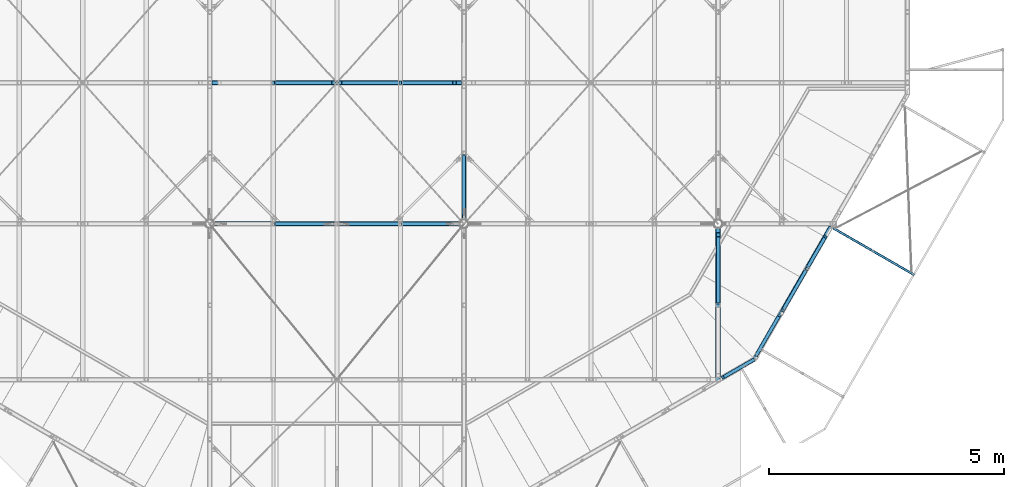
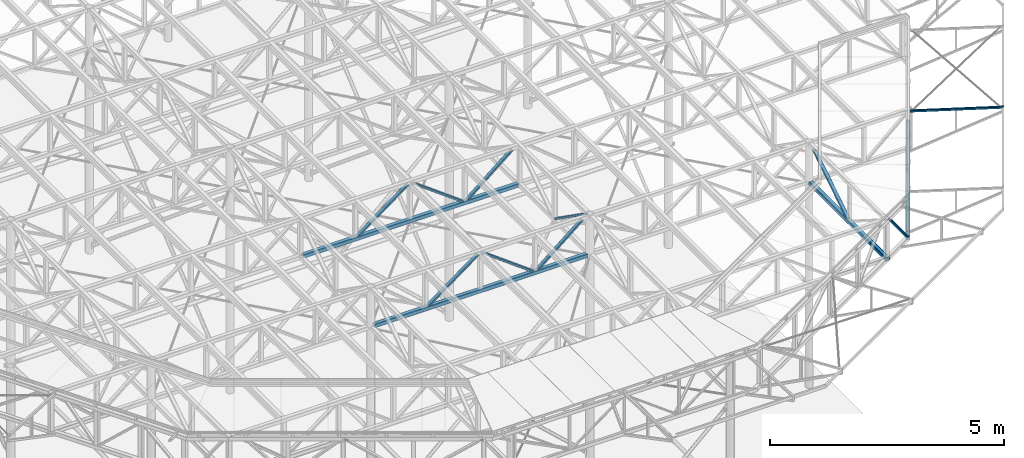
# One storey, part 47 of 132: 17 discrete accessories, 6 elements without a shape of their own.
"""IFC2X3 building model written with IfcOpenShell, lengths in millimetres."""

from ifc_helpers import new_model, si_unit, frame, origin_with_axes, origin_2d_with_axis, place, context, subcontext, project, spatial, hollow_rectangle, circle, extrude, boolean, clip, halfspace, material, type_object, element, aggregate, save


model = new_model("IFC2X3")

# Units and contexts
model_context = context("Model", 3, precision=1e-05, world=origin_with_axes())
body_context = subcontext(model_context, "Body", "Model", "MODEL_VIEW")
ifc_project = project(units=[si_unit("LENGTHUNIT", "METRE", prefix="MILLI"), si_unit("AREAUNIT", "SQUARE_METRE"), si_unit("VOLUMEUNIT", "CUBIC_METRE"), si_unit("MASSUNIT", "GRAM", prefix="KILO"), si_unit("TIMEUNIT", "SECOND"), si_unit("PLANEANGLEUNIT", "RADIAN"), si_unit("SOLIDANGLEUNIT", "STERADIAN"), si_unit("THERMODYNAMICTEMPERATUREUNIT", "DEGREE_CELSIUS"), si_unit("LUMINOUSINTENSITYUNIT", "LUMEN")], contexts=[model_context])

# Site, building, storey
site_placement = place(None, origin_with_axes())
site = spatial("IfcSite", under=ifc_project, at=site_placement, Name="Budowa", CompositionType="ELEMENT")
building_placement = place(site_placement, origin_with_axes())
building = spatial("IfcBuilding", under=site, at=building_placement, Name="Undefined", CompositionType="ELEMENT")
storey_placement = place(building_placement, origin_with_axes())
storey = spatial("IfcBuildingStorey", under=building, at=storey_placement, Name="Undefined", CompositionType="ELEMENT", Elevation=0.0)

# Assembly, discrete accessory
assembly_1_placement = place(storey_placement, origin_with_axes())
assembly_1 = element("IfcElementAssembly", 1, at=assembly_1_placement, inside=storey, Name="Steel Assembly", AssemblyPlace="NOTDEFINED", PredefinedType="RIGID_FRAME")
ifc_material = material(Name="STEEL/S235")
discrete_accessory_type = type_object("IfcDiscreteAccessoryType", Name="BEAM")
discrete_accessory_1_placement = place(assembly_1_placement, frame((22669.1585802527, 5910.61448167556, 13855.0311915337), z_axis=(-0.499969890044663, -0.866042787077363, 0.0), x_axis=(0.864962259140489, -0.499346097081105, 0.0499376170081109)))
discrete_accessory_1 = element("IfcDiscreteAccessory", 2, at=discrete_accessory_1_placement, type_object=discrete_accessory_type, material=ifc_material, Name="BEAM", ObjectType="SHS50*4", context=body_context, shape_type="Clipping", body=[
    clip(clip(extrude(hollow_rectangle(XDim=50.0, YDim=50.0, WallThickness=4.0, InnerFilletRadius=4.0, OuterFilletRadius=8.0, at=origin_2d_with_axis()), frame((2047.80222226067, -1.81898940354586e-12, -1.00153404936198e-12), z_axis=(-1.0, 0.0, 0.0), x_axis=(0.0, -1.0, 0.0)), (0.0, 0.0, 1.0), 2120.54), halfspace(frame((2002.59894631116, 25.0000000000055, -2.91038304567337e-11), z_axis=(-0.689225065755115, 0.724547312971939, 0.0), x_axis=(0.0, 0.0, 1.0)), True)), halfspace(frame((-1.21290213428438e-08, 25.0000000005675, 73.1665326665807), z_axis=(-0.998752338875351, 0.0499376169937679, 0.0), x_axis=(-0.0499376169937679, -0.998752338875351, 0.0)), False)),
])
aggregate(assembly_1, [discrete_accessory_1])

# Assembly, discrete accessories
assembly_2_placement = place(storey_placement, origin_with_axes())
assembly_2 = element("IfcElementAssembly", 3, at=assembly_2_placement, inside=storey, Name="Steel Assembly", AssemblyPlace="NOTDEFINED", PredefinedType="RIGID_FRAME")
discrete_accessory_2_placement = place(assembly_2_placement, frame((21005.0392852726, 3126.34993520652, 12829.9999999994), z_axis=(0.499969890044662, -0.866042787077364, 0.0), x_axis=(-0.550737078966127, -0.317942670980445, 0.771751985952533)))
discrete_accessory_2 = element("IfcDiscreteAccessory", 4, at=discrete_accessory_2_placement, type_object=discrete_accessory_type, material=ifc_material, Name="BEAM", ObjectType="RHS80*40*4", context=body_context, shape_type="Clipping", body=[
    clip(clip(extrude(hollow_rectangle(XDim=40.0, YDim=80.0, WallThickness=4.0, InnerFilletRadius=4.0, OuterFilletRadius=8.0, at=origin_2d_with_axis()), frame((1308.75188651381, 7.64194053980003e-13, -5.26465298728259e-14), z_axis=(-1.0, 0.0, 0.0), x_axis=(0.0, -1.0, 0.0)), (0.0, 0.0, 1.0), 1321.75), halfspace(frame((1257.16546406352, 31.7961818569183, 999.999999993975), z_axis=(-0.771751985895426, 0.635923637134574, -1.24207010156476e-10), x_axis=(-0.635923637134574, -0.771751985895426, -1.02347257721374e-10)), True)), halfspace(frame((38.5875991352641, -31.7961818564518, 1000.0000000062), z_axis=(0.771751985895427, -0.635923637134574, 1.24207727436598e-10), x_axis=(0.635923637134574, 0.771751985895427, 1.02347408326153e-10)), True)),
])
discrete_accessory_3_placement = place(assembly_2_placement, frame((22524.601550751, 5762.83743677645, 13830.0000000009), z_axis=(0.866025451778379, -0.499999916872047, 0.0), x_axis=(-0.317961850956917, -0.550726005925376, -0.771751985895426)))
solid_1 = boolean("DIFFERENCE", boolean("DIFFERENCE", extrude(hollow_rectangle(XDim=100.0, YDim=100.0, WallThickness=4.0, InnerFilletRadius=4.0, OuterFilletRadius=8.0, at=origin_2d_with_axis()), frame((562.315003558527, -603.795327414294, 8.65720911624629e-08), z_axis=(0.771751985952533, 0.63592363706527, -7.13974205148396e-11), x_axis=(-0.635923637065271, 0.771751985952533, 5.8831574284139e-11)), (0.0, 0.0, 1.0), 900.0), halfspace(frame((562.315003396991, -603.795327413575, 1000.00000008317), z_axis=(0.771751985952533, 0.63592363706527, -7.13974205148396e-11), x_axis=(0.0, 0.0, -1.0)), True)), halfspace(frame((1256.89179070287, -31.4640539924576, 1000.00000019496), z_axis=(-0.771751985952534, -0.635923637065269, 7.1397709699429e-11), x_axis=(0.0, 0.0, -1.0)), True))
discrete_accessory_3 = element("IfcDiscreteAccessory", 5, at=discrete_accessory_3_placement, type_object=discrete_accessory_type, material=ifc_material, Name="BEAM", ObjectType="RHS80*40*4", context=body_context, shape_type="CSG", body=[
    boolean("DIFFERENCE", boolean("DIFFERENCE", boolean("DIFFERENCE", extrude(hollow_rectangle(XDim=40.0, YDim=80.0, WallThickness=4.0, InnerFilletRadius=4.0, OuterFilletRadius=8.0, at=origin_2d_with_axis()), frame((1286.18037682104, -1.81898940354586e-12, 9.30315642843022e-13), z_axis=(-1.0, 0.0, 0.0), x_axis=(0.0, -1.0, 0.0)), (0.0, 0.0, 1.0), 1276.61), solid_1), halfspace(frame((1257.16546421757, -31.7961818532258, 1000.0000000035), z_axis=(-0.771751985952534, -0.635923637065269, 7.1397709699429e-11), x_axis=(0.635923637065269, -0.771751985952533, -5.88306647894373e-11)), True)), halfspace(frame((38.5875993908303, 31.7961818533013, 999.999999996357), z_axis=(0.771751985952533, 0.63592363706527, -7.13974205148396e-11), x_axis=(-0.635923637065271, 0.771751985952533, 5.8831574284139e-11)), True)),
])
discrete_accessory_4_placement = place(assembly_2_placement, frame((21572.8166314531, 4114.29782161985, 13830.0000000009), z_axis=(0.866025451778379, -0.499999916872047, 0.0), x_axis=(0.366880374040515, 0.635455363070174, -0.679408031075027)))
solid_2 = boolean("DIFFERENCE", boolean("DIFFERENCE", extrude(hollow_rectangle(XDim=100.0, YDim=100.0, WallThickness=4.0, InnerFilletRadius=4.0, OuterFilletRadius=8.0, at=origin_2d_with_axis()), frame((33.9704017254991, -36.6880335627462, 1.12331645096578e-08), z_axis=(0.679408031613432, -0.73376067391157, 2.95362334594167e-10), x_axis=(0.73376067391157, 0.679408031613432, 3.18989805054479e-10)), (0.0, 0.0, 1.0), 900.0), halfspace(frame((33.9704011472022, -36.6880336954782, 1000.00000001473), z_axis=(0.679408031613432, -0.73376067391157, 2.95362334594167e-10), x_axis=(0.0, 0.0, -1.0)), True)), halfspace(frame((645.437629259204, -697.072640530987, 1000.0000002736), z_axis=(-0.679408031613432, 0.73376067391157, -2.95361762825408e-10), x_axis=(0.0, 0.0, -1.0)), True))
solid_3 = boolean("DIFFERENCE", boolean("DIFFERENCE", extrude(hollow_rectangle(XDim=100.0, YDim=100.0, WallThickness=4.0, InnerFilletRadius=4.0, OuterFilletRadius=8.0, at=origin_2d_with_axis()), frame((826.431930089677, 697.072639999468, 3.55837069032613e-07), z_axis=(0.679408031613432, -0.73376067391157, 2.95362334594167e-10), x_axis=(0.73376067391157, 0.679408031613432, 3.18989805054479e-10)), (0.0, 0.0, 1.0), 900.0), halfspace(frame((826.431929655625, 697.072640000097, 1000.00000035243), z_axis=(0.679408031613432, -0.73376067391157, 2.95362334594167e-10), x_axis=(0.0, 0.0, -1.0)), True)), halfspace(frame((1437.89915717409, 36.6880336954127, 999.999999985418), z_axis=(-0.679408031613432, 0.73376067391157, -2.95361762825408e-10), x_axis=(0.0, 0.0, -1.0)), True))
discrete_accessory_4 = element("IfcDiscreteAccessory", 6, at=discrete_accessory_4_placement, type_object=discrete_accessory_type, material=ifc_material, Name="BEAM", ObjectType="RHS80*40*4", context=body_context, shape_type="CSG", body=[
    boolean("DIFFERENCE", boolean("DIFFERENCE", boolean("DIFFERENCE", boolean("DIFFERENCE", extrude(hollow_rectangle(XDim=40.0, YDim=80.0, WallThickness=4.0, InnerFilletRadius=4.0, OuterFilletRadius=8.0, at=origin_2d_with_axis()), frame((1455.54966626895, 0.0, -1.67210073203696e-14), z_axis=(-1.0, 0.0, 0.0), x_axis=(0.0, -1.0, 0.0)), (0.0, 0.0, 1.0), 1439.23), solid_2), solid_3), halfspace(frame((1437.89915717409, 36.6880336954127, 999.999999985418), z_axis=(-0.679408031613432, 0.73376067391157, -2.95361762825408e-10), x_axis=(-0.73376067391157, -0.679408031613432, -3.18989668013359e-10)), True)), halfspace(frame((33.9704011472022, -36.6880336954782, 1000.00000001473), z_axis=(0.679408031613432, -0.73376067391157, 2.95362334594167e-10), x_axis=(0.73376067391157, 0.679408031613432, 3.18989805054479e-10)), True)),
])
discrete_accessory_5_placement = place(assembly_2_placement, frame((21014.2182094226, 3168.25350714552, 12829.9999999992), z_axis=(0.866025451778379, -0.499999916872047, 0.0), x_axis=(0.366880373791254, 0.63545536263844, 0.679408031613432)))
solid_4 = boolean("DIFFERENCE", boolean("DIFFERENCE", extrude(hollow_rectangle(XDim=100.0, YDim=100.0, WallThickness=4.0, InnerFilletRadius=4.0, OuterFilletRadius=8.0, at=origin_2d_with_axis()), frame((659.083833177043, 684.43726692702, 10.738202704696), z_axis=(-0.679408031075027, -0.733760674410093, -2.95362433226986e-10), x_axis=(0.733760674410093, -0.679408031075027, 3.18989805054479e-10)), (0.0, 0.0, 1.0), 900.0), halfspace(frame((659.083832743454, 684.437266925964, 1010.73820270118), z_axis=(-0.679408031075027, -0.733760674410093, -2.95362433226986e-10), x_axis=(0.0, 0.0, -1.0)), True)), halfspace(frame((47.6166042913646, 24.0526604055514, 1010.73820243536), z_axis=(0.679408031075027, 0.733760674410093, 2.95361735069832e-10), x_axis=(0.0, 0.0, -1.0)), True))
solid_5 = boolean("DIFFERENCE", boolean("DIFFERENCE", extrude(hollow_rectangle(XDim=100.0, YDim=100.0, WallThickness=4.0, InnerFilletRadius=4.0, OuterFilletRadius=8.0, at=origin_2d_with_axis()), frame((1451.54536100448, -49.3234072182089, 10.7382030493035), z_axis=(-0.679408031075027, -0.733760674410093, -2.95362433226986e-10), x_axis=(0.733760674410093, -0.679408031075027, 3.18989805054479e-10)), (0.0, 0.0, 1.0), 900.0), halfspace(frame((1451.54536057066, -49.3234072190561, 1010.73820304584), z_axis=(-0.679408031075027, -0.733760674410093, -2.95362433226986e-10), x_axis=(0.0, 0.0, -1.0)), True)), halfspace(frame((840.078132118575, -709.708013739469, 1010.73820278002), z_axis=(0.679408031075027, 0.733760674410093, 2.95361735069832e-10), x_axis=(0.0, 0.0, -1.0)), True))
discrete_accessory_5 = element("IfcDiscreteAccessory", 7, at=discrete_accessory_5_placement, type_object=discrete_accessory_type, material=ifc_material, Name="BEAM", ObjectType="RHS80*40*4", context=body_context, shape_type="CSG", body=[
    boolean("DIFFERENCE", boolean("DIFFERENCE", boolean("DIFFERENCE", boolean("DIFFERENCE", extrude(hollow_rectangle(XDim=40.0, YDim=80.0, WallThickness=4.0, InnerFilletRadius=4.0, OuterFilletRadius=8.0, at=origin_2d_with_axis()), frame((1467.50994166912, 1.65606307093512e-12, 8.39079865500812e-13), z_axis=(-1.0, 0.0, 0.0), x_axis=(0.0, -1.0, 0.0)), (0.0, 0.0, 1.0), 1463.15), solid_4), solid_5), halfspace(frame((1437.89915762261, -36.6880330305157, 1000.00000062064), z_axis=(-0.679408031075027, -0.733760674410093, -2.95362433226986e-10), x_axis=(0.733760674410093, -0.679408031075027, 3.18989805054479e-10)), True)), halfspace(frame((33.9704012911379, 36.6880335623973, 1000.0000000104), z_axis=(0.679408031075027, 0.733760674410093, 2.95361735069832e-10), x_axis=(-0.733760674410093, 0.679408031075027, -3.18989779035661e-10)), True)),
])
discrete_accessory_6_placement = place(assembly_2_placement, frame((20994.4181832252, 3112.48245776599, 12830.0), z_axis=(0.0, 0.0, 1.0), x_axis=(0.5000000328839, 0.866025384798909, 0.0)))
discrete_accessory_6 = element("IfcDiscreteAccessory", 8, at=discrete_accessory_6_placement, type_object=discrete_accessory_type, material=ifc_material, Name="BEAM", ObjectType="SHS100*5", context=body_context, shape_type="Clipping", body=[
    clip(clip(extrude(hollow_rectangle(XDim=100.0, YDim=100.0, WallThickness=5.0, InnerFilletRadius=5.0, OuterFilletRadius=10.0, at=origin_2d_with_axis()), frame((3363.31663048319, 1.86701578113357e-13, 0.0), z_axis=(-1.0, 0.0, 0.0), x_axis=(0.0, -1.0, 0.0)), (0.0, 0.0, 1.0), 3429.57), halfspace(frame((3247.84656727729, 50.000000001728, -50.0), z_axis=(0.866025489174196, 0.499999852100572, 0.0), x_axis=(0.5000000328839, -0.866025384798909, 0.0)), False)), halfspace(frame((3.27163434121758e-08, -50.0000000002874, 0.0), z_axis=(0.965921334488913, -0.258835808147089, 0.0), x_axis=(0.0, 0.0, 1.0)), True)),
])
aggregate(assembly_2, [discrete_accessory_2, discrete_accessory_3, discrete_accessory_4, discrete_accessory_5, discrete_accessory_6])

assembly_3_placement = place(storey_placement, origin_with_axes())
assembly_3 = element("IfcElementAssembly", 9, at=assembly_3_placement, inside=storey, Name="Steel Assembly", AssemblyPlace="NOTDEFINED", PredefinedType="RIGID_FRAME")
discrete_accessory_7_placement = place(assembly_3_placement, frame((20225.0000000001, 5851.20000004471, 13830.0), z_axis=(1.0, 0.0, 0.0), x_axis=(0.0, -0.845757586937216, -0.533567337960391)))
solid_6 = boolean("DIFFERENCE", boolean("DIFFERENCE", extrude(hollow_rectangle(XDim=90.0, YDim=90.0, WallThickness=6.0, InnerFilletRadius=6.0, OuterFilletRadius=12.0, at=origin_2d_with_axis()), frame((1843.27053417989, -39.620043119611, 1.45519152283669e-11), z_axis=(-0.533567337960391, -0.845757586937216, 0.0), x_axis=(0.845757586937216, -0.533567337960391, 0.0)), (0.0, 0.0, 1.0), 900.0), halfspace(frame((1843.27053417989, -39.6200431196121, 1000.00000000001), z_axis=(-0.533567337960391, -0.845757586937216, 0.0), x_axis=(0.845757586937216, -0.533567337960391, 0.0)), True)), halfspace(frame((1363.05993001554, -800.801871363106, 1000.00000000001), z_axis=(0.533567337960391, 0.845757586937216, 0.0), x_axis=(-0.845757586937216, 0.533567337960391, 0.0)), True))
discrete_accessory_7 = element("IfcDiscreteAccessory", 10, at=discrete_accessory_7_placement, type_object=discrete_accessory_type, material=ifc_material, Name="BEAM", ObjectType="RHS90*50*5", context=body_context, shape_type="CSG", body=[
    boolean("DIFFERENCE", boolean("DIFFERENCE", boolean("DIFFERENCE", extrude(hollow_rectangle(XDim=50.0, YDim=90.0, WallThickness=5.0, InnerFilletRadius=7.5, OuterFilletRadius=12.5, at=origin_2d_with_axis()), frame((1845.48264413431, -3.53553394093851e-12, 0.0), z_axis=(-1.0, 0.0, 0.0), x_axis=(0.0, -1.0, 0.0)), (0.0, 0.0, 1.0), 1816.79), solid_6), halfspace(frame((1847.49932138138, -42.2878793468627, 1000.0), z_axis=(-0.533567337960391, -0.845757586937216, 0.0), x_axis=(0.845757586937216, -0.533567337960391, 0.0)), True)), halfspace(frame((26.6783668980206, 42.2878793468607, 1000.0), z_axis=(0.533567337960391, 0.845757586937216, 0.0), x_axis=(-0.845757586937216, 0.533567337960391, 0.0)), True)),
])
discrete_accessory_8_placement = place(assembly_3_placement, frame((20225.0, 5911.10000004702, 12830.0), z_axis=(-1.0, 0.0, 0.0), x_axis=(0.0, -1.0, 0.0)))
discrete_accessory_8 = element("IfcDiscreteAccessory", 11, at=discrete_accessory_8_placement, type_object=discrete_accessory_type, material=ifc_material, Name="BEAM", ObjectType="SHS100*8", context=body_context, shape_type="CSG", body=[
    boolean("DIFFERENCE", boolean("DIFFERENCE", extrude(hollow_rectangle(XDim=100.0, YDim=100.0, WallThickness=8.0, InnerFilletRadius=8.0, OuterFilletRadius=16.0, at=origin_2d_with_axis()), frame((3271.09999999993, 0.0, 0.0), z_axis=(-1.0, 0.0, 0.0), x_axis=(0.0, -1.0, 0.0)), (0.0, 0.0, 1.0), 3360.0), extrude(circle(Radius=89.9, at=origin_2d_with_axis()), frame((-88.9000000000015, 1950.0, -5.45696821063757e-12), z_axis=(0.0, -1.0, 0.0), x_axis=(1.0, 0.0, 0.0)), (0.0, 0.0, 1.0), 2100.0)), halfspace(frame((-88.9000000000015, -5339.0, -5.45696821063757e-12), z_axis=(-1.0, 0.0, 0.0), x_axis=(0.0, 0.0, -1.0)), False)),
])
aggregate(assembly_3, [discrete_accessory_7, discrete_accessory_8])

assembly_4_placement = place(storey_placement, origin_with_axes())
assembly_4 = element("IfcElementAssembly", 12, at=assembly_4_placement, inside=storey, Name="Steel Assembly", AssemblyPlace="NOTDEFINED", PredefinedType="RIGID_FRAME")
discrete_accessory_9_placement = place(assembly_4_placement, frame((14683.9999999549, 9000.00000004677, 13830.0), z_axis=(0.0, -1.0, 0.0), x_axis=(-0.770567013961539, 0.0, -0.637358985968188)))
solid_7 = boolean("DIFFERENCE", boolean("DIFFERENCE", extrude(hollow_rectangle(XDim=90.0, YDim=90.0, WallThickness=6.0, InnerFilletRadius=6.0, OuterFilletRadius=12.0, at=origin_2d_with_axis()), frame((1537.1065565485, -38.5283507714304, -6.22094376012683e-10), z_axis=(-0.637358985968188, -0.770567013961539, 0.0), x_axis=(0.770567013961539, -0.637358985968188, 0.0)), (0.0, 0.0, 1.0), 900.0), halfspace(frame((1537.1065565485, -38.5283507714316, 999.999999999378), z_axis=(-0.637358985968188, -0.770567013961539, 0.0), x_axis=(0.770567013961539, -0.637358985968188, 0.0)), True)), halfspace(frame((963.483469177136, -732.038663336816, 999.999999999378), z_axis=(0.637358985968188, 0.770567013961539, 0.0), x_axis=(-0.770567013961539, 0.637358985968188, 0.0)), True))
discrete_accessory_9 = element("IfcDiscreteAccessory", 13, at=discrete_accessory_9_placement, type_object=discrete_accessory_type, material=ifc_material, Name="BEAM", ObjectType="RHS90*50*5", context=body_context, shape_type="CSG", body=[
    boolean("DIFFERENCE", boolean("DIFFERENCE", boolean("DIFFERENCE", extrude(hollow_rectangle(XDim=50.0, YDim=90.0, WallThickness=5.0, InnerFilletRadius=7.5, OuterFilletRadius=12.5, at=origin_2d_with_axis()), frame((1533.07734352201, 2.27373675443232e-12, 0.0), z_axis=(-1.0, 0.0, 0.0), x_axis=(0.0, -1.0, 0.0)), (0.0, 0.0, 1.0), 1497.18), solid_7), halfspace(frame((1537.1065565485, -38.5283507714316, 999.999999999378), z_axis=(-0.637358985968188, -0.770567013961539, 0.0), x_axis=(0.770567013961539, -0.637358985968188, 0.0)), True)), halfspace(frame((31.867949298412, 38.52835069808, 1000.0), z_axis=(0.637358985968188, 0.770567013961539, 0.0), x_axis=(-0.770567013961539, 0.637358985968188, 0.0)), True)),
])
discrete_accessory_10_placement = place(assembly_4_placement, frame((12124.9999999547, 9000.00000004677, 13830.0), z_axis=(0.0, -1.0, 0.0), x_axis=(-0.803557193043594, 0.0, -0.595227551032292)))
solid_8 = boolean("DIFFERENCE", boolean("DIFFERENCE", extrude(hollow_rectangle(XDim=90.0, YDim=90.0, WallThickness=6.0, InnerFilletRadius=6.0, OuterFilletRadius=12.0, at=origin_2d_with_axis()), frame((565.466173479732, 763.379333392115, -6.22094376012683e-10), z_axis=(-0.595227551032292, -0.803557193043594, 0.0), x_axis=(0.803557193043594, -0.595227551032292, 0.0)), (0.0, 0.0, 1.0), 900.0), halfspace(frame((565.46617347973, 763.379333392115, 999.999999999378), z_axis=(-0.595227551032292, -0.803557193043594, 0.0), x_axis=(0.803557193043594, -0.595227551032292, 0.0)), True)), halfspace(frame((29.7613775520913, 40.1778596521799, 1000.0), z_axis=(0.595227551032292, 0.803557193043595, 0.0), x_axis=(-0.803557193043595, 0.595227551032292, 0.0)), True))
solid_9 = boolean("DIFFERENCE", boolean("DIFFERENCE", extrude(hollow_rectangle(XDim=90.0, YDim=90.0, WallThickness=6.0, InnerFilletRadius=6.0, OuterFilletRadius=12.0, at=origin_2d_with_axis()), frame((1650.26838408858, -40.1778605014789, -6.22094376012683e-10), z_axis=(-0.595227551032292, -0.803557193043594, 0.0), x_axis=(0.803557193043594, -0.595227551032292, 0.0)), (0.0, 0.0, 1.0), 900.0), halfspace(frame((1650.2683829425, -40.1778596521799, 1000.0), z_axis=(-0.595227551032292, -0.803557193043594, 0.0), x_axis=(0.803557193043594, -0.595227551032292, 0.0)), True)), halfspace(frame((1114.56358815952, -763.379334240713, 999.999999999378), z_axis=(0.595227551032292, 0.803557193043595, 0.0), x_axis=(-0.803557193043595, 0.595227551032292, 0.0)), True))
discrete_accessory_10 = element("IfcDiscreteAccessory", 14, at=discrete_accessory_10_placement, type_object=discrete_accessory_type, material=ifc_material, Name="BEAM", ObjectType="RHS90*50*5", context=body_context, shape_type="CSG", body=[
    boolean("DIFFERENCE", boolean("DIFFERENCE", boolean("DIFFERENCE", boolean("DIFFERENCE", extrude(hollow_rectangle(XDim=50.0, YDim=90.0, WallThickness=5.0, InnerFilletRadius=7.5, OuterFilletRadius=12.5, at=origin_2d_with_axis()), frame((1632.54994793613, 0.0, 0.0), z_axis=(-1.0, 0.0, 0.0), x_axis=(0.0, -1.0, 0.0)), (0.0, 0.0, 1.0), 1585.07), solid_8), solid_9), halfspace(frame((1650.2683829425, -40.1778596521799, 1000.0), z_axis=(-0.595227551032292, -0.803557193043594, 0.0), x_axis=(0.803557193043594, -0.595227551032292, 0.0)), True)), halfspace(frame((29.7613775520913, 40.1778596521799, 1000.0), z_axis=(0.595227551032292, 0.803557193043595, 0.0), x_axis=(-0.803557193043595, 0.595227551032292, 0.0)), True)),
])
discrete_accessory_11_placement = place(assembly_4_placement, frame((12124.9999999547, 9000.00000004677, 13830.0), z_axis=(0.0, -1.0, 0.0), x_axis=(0.803557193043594, 0.0, -0.595227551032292)))
solid_10 = boolean("DIFFERENCE", boolean("DIFFERENCE", extrude(hollow_rectangle(XDim=90.0, YDim=90.0, WallThickness=6.0, InnerFilletRadius=6.0, OuterFilletRadius=12.0, at=origin_2d_with_axis()), frame((1650.26838408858, 40.1778605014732, -6.22094376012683e-10), z_axis=(-0.595227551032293, 0.803557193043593, 0.0), x_axis=(-0.803557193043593, -0.595227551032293, 0.0)), (0.0, 0.0, 1.0), 900.0), halfspace(frame((1650.2683829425, 40.1778596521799, 1000.0), z_axis=(-0.595227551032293, 0.803557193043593, 0.0), x_axis=(-0.803557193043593, -0.595227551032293, 0.0)), True)), halfspace(frame((1114.56358815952, 763.379334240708, 999.999999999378), z_axis=(0.595227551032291, -0.803557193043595, 0.0), x_axis=(0.803557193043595, 0.595227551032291, 0.0)), True))
solid_11 = boolean("DIFFERENCE", boolean("DIFFERENCE", extrude(hollow_rectangle(XDim=90.0, YDim=90.0, WallThickness=6.0, InnerFilletRadius=6.0, OuterFilletRadius=12.0, at=origin_2d_with_axis()), frame((565.46617347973, -763.379333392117, -6.22094376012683e-10), z_axis=(-0.595227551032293, 0.803557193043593, 0.0), x_axis=(-0.803557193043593, -0.595227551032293, 0.0)), (0.0, 0.0, 1.0), 900.0), halfspace(frame((565.46617347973, -763.37933339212, 999.999999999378), z_axis=(-0.595227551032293, 0.803557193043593, 0.0), x_axis=(-0.803557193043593, -0.595227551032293, 0.0)), True)), halfspace(frame((29.7613775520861, -40.1778596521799, 1000.0), z_axis=(0.595227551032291, -0.803557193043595, 0.0), x_axis=(0.803557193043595, 0.595227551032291, 0.0)), True))
discrete_accessory_11 = element("IfcDiscreteAccessory", 15, at=discrete_accessory_11_placement, type_object=discrete_accessory_type, material=ifc_material, Name="BEAM", ObjectType="RHS90*50*5", context=body_context, shape_type="CSG", body=[
    boolean("DIFFERENCE", boolean("DIFFERENCE", boolean("DIFFERENCE", boolean("DIFFERENCE", extrude(hollow_rectangle(XDim=50.0, YDim=90.0, WallThickness=5.0, InnerFilletRadius=7.5, OuterFilletRadius=12.5, at=origin_2d_with_axis()), frame((1632.54994793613, 0.0, 0.0), z_axis=(-1.0, 0.0, 0.0), x_axis=(0.0, -1.0, 0.0)), (0.0, 0.0, 1.0), 1585.07), solid_10), solid_11), halfspace(frame((1650.2683829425, 40.1778596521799, 1000.0), z_axis=(-0.595227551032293, 0.803557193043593, 0.0), x_axis=(-0.803557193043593, -0.595227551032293, 0.0)), True)), halfspace(frame((29.7613775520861, -40.1778596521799, 1000.0), z_axis=(0.595227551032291, -0.803557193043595, 0.0), x_axis=(0.803557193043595, 0.595227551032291, 0.0)), True)),
])
discrete_accessory_12_placement = place(assembly_4_placement, frame((9474.9999999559, 9000.00000004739, 12830.0), z_axis=(0.0, -1.0, 0.0), x_axis=(1.0, 0.0, 0.0)))
discrete_accessory_12 = element("IfcDiscreteAccessory", 16, at=discrete_accessory_12_placement, type_object=discrete_accessory_type, material=ifc_material, Name="BEAM", ObjectType="SHS100*8", context=body_context, shape_type="SweptSolid", body=[
    extrude(hollow_rectangle(XDim=100.0, YDim=100.0, WallThickness=8.0, InnerFilletRadius=8.0, OuterFilletRadius=16.0, at=origin_2d_with_axis()), frame((5300.0, 0.0, 0.0), z_axis=(-1.0, 0.0, 0.0), x_axis=(0.0, -1.0, 0.0)), (0.0, 0.0, 1.0), 5300.0),
])
aggregate(assembly_4, [discrete_accessory_9, discrete_accessory_10, discrete_accessory_11, discrete_accessory_12])

# Assembly, discrete accessory
assembly_5_placement = place(storey_placement, origin_with_axes())
assembly_5 = element("IfcElementAssembly", 17, at=assembly_5_placement, inside=storey, Name="Steel Assembly", AssemblyPlace="NOTDEFINED", PredefinedType="RIGID_FRAME")
discrete_accessory_13_placement = place(assembly_5_placement, frame((14824.9999999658, 7499.80000004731, 12829.9999999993), z_axis=(1.0, 0.0, 0.0), x_axis=(0.0, -0.817796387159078, 0.575507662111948)))
solid_12 = boolean("DIFFERENCE", boolean("DIFFERENCE", extrude(hollow_rectangle(XDim=90.0, YDim=90.0, WallThickness=6.0, InnerFilletRadius=6.0, OuterFilletRadius=12.0, at=origin_2d_with_axis()), frame((28.6118238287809, -41.0049208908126, 2.20825313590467e-09), z_axis=(0.575507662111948, -0.817796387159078, 0.0), x_axis=(0.817796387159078, 0.575507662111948, 0.0)), (0.0, 0.0, 1.0), 900.0), halfspace(frame((28.6118238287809, -41.0049208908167, 1000.00000000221), z_axis=(0.575507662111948, -0.817796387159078, 0.0), x_axis=(0.817796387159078, 0.575507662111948, 0.0)), True)), halfspace(frame((546.568719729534, -777.021669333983, 1000.00000000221), z_axis=(-0.57550766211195, 0.817796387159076, 0.0), x_axis=(-0.817796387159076, -0.57550766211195, 0.0)), True))
discrete_accessory_13 = element("IfcDiscreteAccessory", 18, at=discrete_accessory_13_placement, type_object=discrete_accessory_type, material=ifc_material, Name="BEAM", ObjectType="RHS90*50*5", context=body_context, shape_type="CSG", body=[
    boolean("DIFFERENCE", boolean("DIFFERENCE", boolean("DIFFERENCE", extrude(hollow_rectangle(XDim=50.0, YDim=90.0, WallThickness=5.0, InnerFilletRadius=7.5, OuterFilletRadius=12.5, at=origin_2d_with_axis()), frame((1708.27858753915, 0.0, 0.0), z_axis=(-1.0, 0.0, 0.0), x_axis=(0.0, -1.0, 0.0)), (0.0, 0.0, 1.0), 1678.96), solid_12), halfspace(frame((1708.8209441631, 40.8898193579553, 1000.0), z_axis=(-0.57550766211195, 0.817796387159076, 0.0), x_axis=(-0.817796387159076, -0.57550766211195, 0.0)), True)), halfspace(frame((28.7753831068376, -40.8898193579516, 1000.0), z_axis=(0.575507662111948, -0.817796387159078, 0.0), x_axis=(0.817796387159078, 0.575507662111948, 0.0)), True)),
])
aggregate(assembly_5, [discrete_accessory_13])

# Assembly, discrete accessories
assembly_6_placement = place(storey_placement, origin_with_axes())
assembly_6 = element("IfcElementAssembly", 19, at=assembly_6_placement, inside=storey, Name="Steel Assembly", AssemblyPlace="NOTDEFINED", PredefinedType="RIGID_FRAME")
discrete_accessory_14_placement = place(assembly_6_placement, frame((14683.9999999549, 6000.00000004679, 13830.0), z_axis=(0.0, -1.0, 0.0), x_axis=(-0.770567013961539, 0.0, -0.637358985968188)))
solid_13 = boolean("DIFFERENCE", boolean("DIFFERENCE", extrude(hollow_rectangle(XDim=90.0, YDim=90.0, WallThickness=6.0, InnerFilletRadius=6.0, OuterFilletRadius=12.0, at=origin_2d_with_axis()), frame((1537.1065565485, -38.5283507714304, -6.22094376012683e-10), z_axis=(-0.637358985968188, -0.770567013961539, 0.0), x_axis=(0.770567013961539, -0.637358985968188, 0.0)), (0.0, 0.0, 1.0), 900.0), halfspace(frame((1537.1065565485, -38.5283507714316, 999.999999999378), z_axis=(-0.637358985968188, -0.770567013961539, 0.0), x_axis=(0.770567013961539, -0.637358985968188, 0.0)), True)), halfspace(frame((963.483469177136, -732.038663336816, 999.999999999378), z_axis=(0.637358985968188, 0.770567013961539, 0.0), x_axis=(-0.770567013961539, 0.637358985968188, 0.0)), True))
discrete_accessory_14 = element("IfcDiscreteAccessory", 20, at=discrete_accessory_14_placement, type_object=discrete_accessory_type, material=ifc_material, Name="BEAM", ObjectType="RHS90*50*5", context=body_context, shape_type="CSG", body=[
    boolean("DIFFERENCE", boolean("DIFFERENCE", boolean("DIFFERENCE", extrude(hollow_rectangle(XDim=50.0, YDim=90.0, WallThickness=5.0, InnerFilletRadius=7.5, OuterFilletRadius=12.5, at=origin_2d_with_axis()), frame((1533.07734352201, 2.27373675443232e-12, 0.0), z_axis=(-1.0, 0.0, 0.0), x_axis=(0.0, -1.0, 0.0)), (0.0, 0.0, 1.0), 1497.18), solid_13), halfspace(frame((1537.1065565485, -38.5283507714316, 999.999999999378), z_axis=(-0.637358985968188, -0.770567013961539, 0.0), x_axis=(0.770567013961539, -0.637358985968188, 0.0)), True)), halfspace(frame((31.867949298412, 38.52835069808, 1000.0), z_axis=(0.637358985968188, 0.770567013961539, 0.0), x_axis=(-0.770567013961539, 0.637358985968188, 0.0)), True)),
])
discrete_accessory_15_placement = place(assembly_6_placement, frame((12124.9999999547, 6000.00000004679, 13830.0), z_axis=(0.0, -1.0, 0.0), x_axis=(-0.803557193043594, 0.0, -0.595227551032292)))
solid_14 = boolean("DIFFERENCE", boolean("DIFFERENCE", extrude(hollow_rectangle(XDim=90.0, YDim=90.0, WallThickness=6.0, InnerFilletRadius=6.0, OuterFilletRadius=12.0, at=origin_2d_with_axis()), frame((565.466173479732, 763.379333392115, -6.22094376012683e-10), z_axis=(-0.595227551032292, -0.803557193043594, 0.0), x_axis=(0.803557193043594, -0.595227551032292, 0.0)), (0.0, 0.0, 1.0), 900.0), halfspace(frame((565.46617347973, 763.379333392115, 999.999999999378), z_axis=(-0.595227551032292, -0.803557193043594, 0.0), x_axis=(0.803557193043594, -0.595227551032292, 0.0)), True)), halfspace(frame((29.7613775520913, 40.1778596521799, 1000.0), z_axis=(0.595227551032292, 0.803557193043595, 0.0), x_axis=(-0.803557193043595, 0.595227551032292, 0.0)), True))
solid_15 = boolean("DIFFERENCE", boolean("DIFFERENCE", extrude(hollow_rectangle(XDim=90.0, YDim=90.0, WallThickness=6.0, InnerFilletRadius=6.0, OuterFilletRadius=12.0, at=origin_2d_with_axis()), frame((1650.26838408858, -40.1778605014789, -6.22094376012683e-10), z_axis=(-0.595227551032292, -0.803557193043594, 0.0), x_axis=(0.803557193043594, -0.595227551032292, 0.0)), (0.0, 0.0, 1.0), 900.0), halfspace(frame((1650.2683829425, -40.1778596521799, 1000.0), z_axis=(-0.595227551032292, -0.803557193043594, 0.0), x_axis=(0.803557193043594, -0.595227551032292, 0.0)), True)), halfspace(frame((1114.56358815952, -763.379334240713, 999.999999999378), z_axis=(0.595227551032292, 0.803557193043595, 0.0), x_axis=(-0.803557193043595, 0.595227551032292, 0.0)), True))
discrete_accessory_15 = element("IfcDiscreteAccessory", 21, at=discrete_accessory_15_placement, type_object=discrete_accessory_type, material=ifc_material, Name="BEAM", ObjectType="RHS90*50*5", context=body_context, shape_type="CSG", body=[
    boolean("DIFFERENCE", boolean("DIFFERENCE", boolean("DIFFERENCE", boolean("DIFFERENCE", extrude(hollow_rectangle(XDim=50.0, YDim=90.0, WallThickness=5.0, InnerFilletRadius=7.5, OuterFilletRadius=12.5, at=origin_2d_with_axis()), frame((1632.54994793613, 0.0, 0.0), z_axis=(-1.0, 0.0, 0.0), x_axis=(0.0, -1.0, 0.0)), (0.0, 0.0, 1.0), 1585.07), solid_14), solid_15), halfspace(frame((1650.2683829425, -40.1778596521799, 1000.0), z_axis=(-0.595227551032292, -0.803557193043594, 0.0), x_axis=(0.803557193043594, -0.595227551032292, 0.0)), True)), halfspace(frame((29.7613775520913, 40.1778596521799, 1000.0), z_axis=(0.595227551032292, 0.803557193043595, 0.0), x_axis=(-0.803557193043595, 0.595227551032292, 0.0)), True)),
])
discrete_accessory_16_placement = place(assembly_6_placement, frame((12124.9999999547, 6000.00000004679, 13830.0), z_axis=(0.0, -1.0, 0.0), x_axis=(0.803557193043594, 0.0, -0.595227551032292)))
solid_16 = boolean("DIFFERENCE", boolean("DIFFERENCE", extrude(hollow_rectangle(XDim=90.0, YDim=90.0, WallThickness=6.0, InnerFilletRadius=6.0, OuterFilletRadius=12.0, at=origin_2d_with_axis()), frame((1650.26838408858, 40.1778605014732, -6.22094376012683e-10), z_axis=(-0.595227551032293, 0.803557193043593, 0.0), x_axis=(-0.803557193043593, -0.595227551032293, 0.0)), (0.0, 0.0, 1.0), 900.0), halfspace(frame((1650.2683829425, 40.1778596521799, 1000.0), z_axis=(-0.595227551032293, 0.803557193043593, 0.0), x_axis=(-0.803557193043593, -0.595227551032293, 0.0)), True)), halfspace(frame((1114.56358815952, 763.379334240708, 999.999999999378), z_axis=(0.595227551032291, -0.803557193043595, 0.0), x_axis=(0.803557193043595, 0.595227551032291, 0.0)), True))
solid_17 = boolean("DIFFERENCE", boolean("DIFFERENCE", extrude(hollow_rectangle(XDim=90.0, YDim=90.0, WallThickness=6.0, InnerFilletRadius=6.0, OuterFilletRadius=12.0, at=origin_2d_with_axis()), frame((565.46617347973, -763.379333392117, -6.22094376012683e-10), z_axis=(-0.595227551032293, 0.803557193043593, 0.0), x_axis=(-0.803557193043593, -0.595227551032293, 0.0)), (0.0, 0.0, 1.0), 900.0), halfspace(frame((565.46617347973, -763.37933339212, 999.999999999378), z_axis=(-0.595227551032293, 0.803557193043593, 0.0), x_axis=(-0.803557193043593, -0.595227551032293, 0.0)), True)), halfspace(frame((29.7613775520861, -40.1778596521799, 1000.0), z_axis=(0.595227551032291, -0.803557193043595, 0.0), x_axis=(0.803557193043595, 0.595227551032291, 0.0)), True))
discrete_accessory_16 = element("IfcDiscreteAccessory", 22, at=discrete_accessory_16_placement, type_object=discrete_accessory_type, material=ifc_material, Name="BEAM", ObjectType="RHS90*50*5", context=body_context, shape_type="CSG", body=[
    boolean("DIFFERENCE", boolean("DIFFERENCE", boolean("DIFFERENCE", boolean("DIFFERENCE", extrude(hollow_rectangle(XDim=50.0, YDim=90.0, WallThickness=5.0, InnerFilletRadius=7.5, OuterFilletRadius=12.5, at=origin_2d_with_axis()), frame((1632.54994793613, 0.0, 0.0), z_axis=(-1.0, 0.0, 0.0), x_axis=(0.0, -1.0, 0.0)), (0.0, 0.0, 1.0), 1585.07), solid_16), solid_17), halfspace(frame((1650.2683829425, 40.1778596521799, 1000.0), z_axis=(-0.595227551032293, 0.803557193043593, 0.0), x_axis=(-0.803557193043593, -0.595227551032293, 0.0)), True)), halfspace(frame((29.7613775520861, -40.1778596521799, 1000.0), z_axis=(0.595227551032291, -0.803557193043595, 0.0), x_axis=(0.803557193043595, 0.595227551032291, 0.0)), True)),
])
discrete_accessory_17_placement = place(assembly_6_placement, frame((9513.99999995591, 6000.00000004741, 12830.0), z_axis=(0.0, -1.0, 0.0), x_axis=(1.0, 0.0, 0.0)))
discrete_accessory_17 = element("IfcDiscreteAccessory", 23, at=discrete_accessory_17_placement, type_object=discrete_accessory_type, material=ifc_material, Name="BEAM", ObjectType="SHS100*8", context=body_context, shape_type="CSG", body=[
    boolean("DIFFERENCE", boolean("DIFFERENCE", boolean("DIFFERENCE", boolean("DIFFERENCE", extrude(hollow_rectangle(XDim=100.0, YDim=100.0, WallThickness=8.0, InnerFilletRadius=8.0, OuterFilletRadius=16.0, at=origin_2d_with_axis()), frame((5311.00000001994, 0.0, 0.0), z_axis=(-1.0, 0.0, 0.0), x_axis=(0.0, -1.0, 0.0)), (0.0, 0.0, 1.0), 5400.0), extrude(circle(Radius=89.9, at=origin_2d_with_axis()), frame((-89.0000000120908, 1950.0, 1.09139364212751e-11), z_axis=(0.0, -1.0, 0.0), x_axis=(0.0, 0.0, 1.0)), (0.0, 0.0, 1.0), 2100.0)), extrude(circle(Radius=89.9, at=origin_2d_with_axis()), frame((5311.00000001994, 1950.0, 7.27595761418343e-12), z_axis=(0.0, -1.0, 0.0), x_axis=(0.0, 0.0, 1.0)), (0.0, 0.0, 1.0), 2100.0)), halfspace(frame((5311.00000001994, -5339.0, 7.27595761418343e-12), z_axis=(-1.0, 0.0, 0.0), x_axis=(0.0, 0.0, -1.0)), True)), halfspace(frame((-89.0000000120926, -5339.0, 1.09139364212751e-11), z_axis=(-1.0, 0.0, 0.0), x_axis=(0.0, 0.0, -1.0)), False)),
])
aggregate(assembly_6, [discrete_accessory_14, discrete_accessory_15, discrete_accessory_16, discrete_accessory_17])

save(model, "model.ifc")
